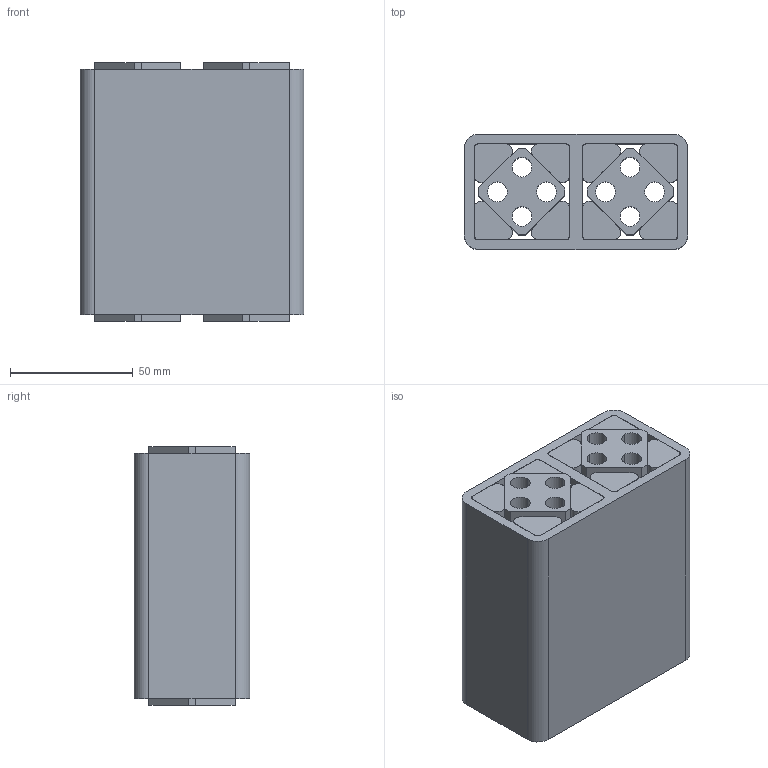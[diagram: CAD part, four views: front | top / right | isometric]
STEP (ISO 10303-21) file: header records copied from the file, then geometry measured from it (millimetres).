
FILE_DESCRIPTION((''),'2;1');
FILE_NAME('D:\ROSTA\Gummifederelemente\3D\DO-A27x100_01041009.stp','2005-02-09T11:24:26',('Administrator'),(''),'Autodesk Inventor 8','Autodesk Inventor 8','');
FILE_SCHEMA(('AUTOMOTIVE_DESIGN { 1 0 10303 214 1 1 1 1 }'));
Length unit declared in the file: millimetre
Products named in the file (4): Baugruppe2; 4.4.3760-009; 4.4.3760-010; 4.4.3760-011
Assembly tree (11 placements, depth 2):
  Baugruppe2
    4.4.3760-009
    4.4.3760-010  x2
    4.4.3760-011  x8
Bounding box: 91 x 47 x 105 mm (x, y, z)
Volume: 370181.7 mm3; surface area: 149061.7 mm2
Topology: 11 solids, 11 shells, 126 faces, 312 edges, 208 vertices
Faces by surface type: plane 74, cylinder 52
Entity records: 1819 total; most frequent: DIRECTION 318, CARTESIAN_POINT 297, ORIENTED_EDGE 276, EDGE_CURVE 138, AXIS2_PLACEMENT_3D 113, VERTEX_POINT 92, VECTOR 92, LINE 92
